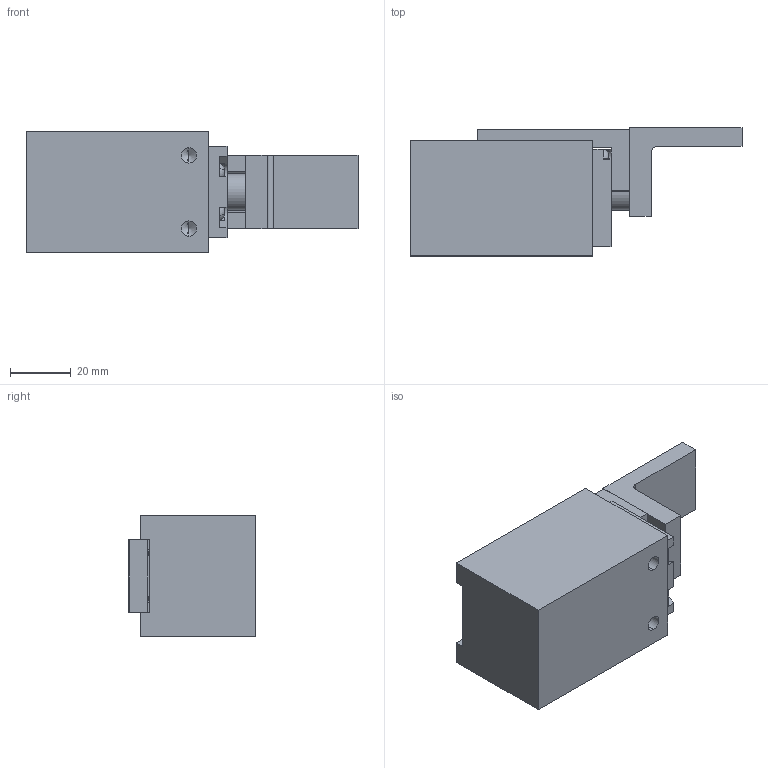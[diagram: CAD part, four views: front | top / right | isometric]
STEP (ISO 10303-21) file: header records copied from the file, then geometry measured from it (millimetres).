
FILE_DESCRIPTION (( 'STEP AP203' ), '1' );
FILE_NAME ('DBSQ-65-W_Eingefahren.STEP', '2018-05-11T06:06:22', ( '' ), ( '' ), 'SwSTEP 2.0', 'SolidWorks 2017', '' );
FILE_SCHEMA (( 'CONFIG_CONTROL_DESIGN' ));
Length unit declared in the file: millimetre
Products named in the file (1): DBSQ-65-W_Eingefahren
Bounding box: 109.01 x 41.99 x 40 mm (x, y, z)
Volume: 109584.2 mm3; surface area: 22313.8 mm2
Topology: 3 solids, 4 shells, 207 faces, 518 edges, 327 vertices
Faces by surface type: plane 125, cylinder 54, cone 20, torus 4, sphere 4
Entity records: 6192 total; most frequent: CARTESIAN_POINT 1125, DIRECTION 1059, ORIENTED_EDGE 1020, EDGE_CURVE 510, AXIS2_PLACEMENT_3D 365, VECTOR 329, LINE 329, VERTEX_POINT 327
